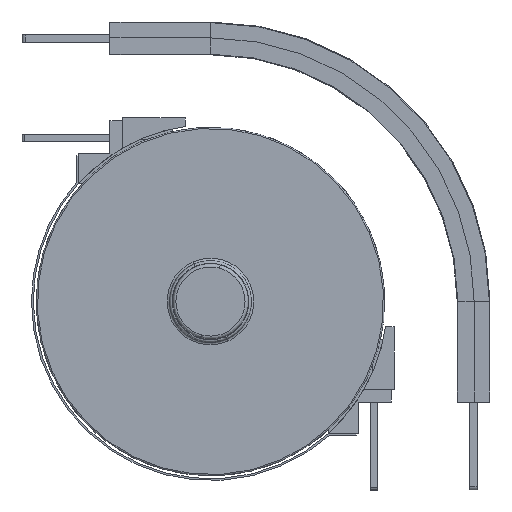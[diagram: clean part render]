
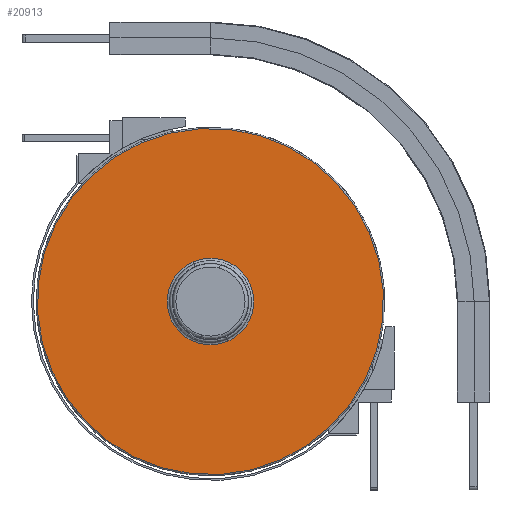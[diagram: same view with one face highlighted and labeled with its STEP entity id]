
A CAD part, front view. The second image highlights one B-rep face of the part: STEP entity #20913.
In plain terms, the highlighted planar face has unit normal (0, -1, 0) as drawn and (0, 0, 1) by its records, which use the part's own axes.
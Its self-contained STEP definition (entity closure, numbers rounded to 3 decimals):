
#3077 = ORIENTED_EDGE ( 'NONE', *, *, #7810, .T. ) ;
#3080 = ORIENTED_EDGE ( 'NONE', *, *, #20645, .T. ) ;
#3082 = ORIENTED_EDGE ( 'NONE', *, *, #7809, .T. ) ;
#3085 = ORIENTED_EDGE ( 'NONE', *, *, #20649, .T. ) ;
#4280 = FACE_OUTER_BOUND ( 'NONE', #6870, .T. ) ;
#4282 = DIRECTION ( 'NONE',  ( 0., 0., 1. ) ) ;
#4284 = CARTESIAN_POINT ( 'NONE',  ( 981.95, 0., 21.9 ) ) ;
#4286 = FACE_BOUND ( 'NONE', #6869, .T. ) ;
#4287 = PLANE ( 'NONE',  #24738 ) ;
#4289 = DIRECTION ( 'NONE',  ( 1., 0., 0. ) ) ;
#5331 = CARTESIAN_POINT ( 'NONE',  ( 895.8, 0., 21.9 ) ) ;
#5332 = DIRECTION ( 'NONE',  ( 0., 0., 1. ) ) ;
#5333 = DIRECTION ( 'NONE',  ( 0., 1., 0. ) ) ;
#5343 = CARTESIAN_POINT ( 'NONE',  ( 895.8, 0., 21.9 ) ) ;
#5344 = DIRECTION ( 'NONE',  ( 0., 0., -1. ) ) ;
#5345 = DIRECTION ( 'NONE',  ( -1., 0., 0. ) ) ;
#6419 = VERTEX_POINT ( 'NONE', #12094 ) ;
#6420 = VERTEX_POINT ( 'NONE', #12095 ) ;
#6422 = VERTEX_POINT ( 'NONE', #12097 ) ;
#6423 = VERTEX_POINT ( 'NONE', #12098 ) ;
#6869 = EDGE_LOOP ( 'NONE', ( #3082, #3085 ) ) ;
#6870 = EDGE_LOOP ( 'NONE', ( #3077, #3080 ) ) ;
#7809 = EDGE_CURVE ( 'NONE', #6420, #6423, #27086, .T. ) ;
#7810 = EDGE_CURVE ( 'NONE', #6422, #6419, #27092, .T. ) ;
#12094 = CARTESIAN_POINT ( 'NONE',  ( 895.8, -137.8, 21.9 ) ) ;
#12095 = CARTESIAN_POINT ( 'NONE',  ( 861.3, 0., 21.9 ) ) ;
#12097 = CARTESIAN_POINT ( 'NONE',  ( 895.8, 137.8, 21.9 ) ) ;
#12098 = CARTESIAN_POINT ( 'NONE',  ( 930.3, 0., 21.9 ) ) ;
#20645 = EDGE_CURVE ( 'NONE', #6419, #6422, #24388, .T. ) ;
#20649 = EDGE_CURVE ( 'NONE', #6423, #6420, #24424, .T. ) ;
#20913 = ADVANCED_FACE ( 'NONE', ( #4280, #4286 ), #4287, .T. ) ;
#23487 = CARTESIAN_POINT ( 'NONE',  ( 895.8, 0., 21.9 ) ) ;
#23488 = DIRECTION ( 'NONE',  ( 0., 0., -1. ) ) ;
#23489 = DIRECTION ( 'NONE',  ( -1., 0., 0. ) ) ;
#23492 = CARTESIAN_POINT ( 'NONE',  ( 895.8, 0., 21.9 ) ) ;
#23493 = DIRECTION ( 'NONE',  ( 0., 0., 1. ) ) ;
#23494 = DIRECTION ( 'NONE',  ( 0., 1., 0. ) ) ;
#24388 = CIRCLE ( 'NONE', #24419, 137.8 ) ;
#24419 = AXIS2_PLACEMENT_3D ( 'NONE', #5331, #5332, #5333 ) ;
#24424 = CIRCLE ( 'NONE', #24427, 34.5 ) ;
#24427 = AXIS2_PLACEMENT_3D ( 'NONE', #5343, #5344, #5345 ) ;
#24738 = AXIS2_PLACEMENT_3D ( 'NONE', #4284, #4282, #4289 ) ;
#27081 = AXIS2_PLACEMENT_3D ( 'NONE', #23487, #23488, #23489 ) ;
#27086 = CIRCLE ( 'NONE', #27081, 34.5 ) ;
#27088 = AXIS2_PLACEMENT_3D ( 'NONE', #23492, #23493, #23494 ) ;
#27092 = CIRCLE ( 'NONE', #27088, 137.8 ) ;
